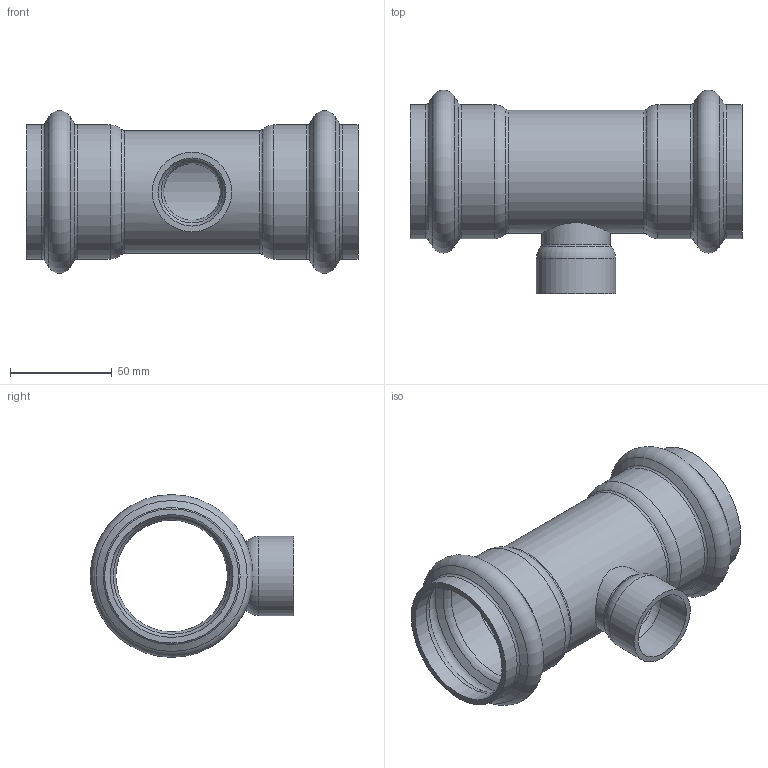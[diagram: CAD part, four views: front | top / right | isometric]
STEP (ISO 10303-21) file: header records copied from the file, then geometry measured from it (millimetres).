
FILE_DESCRIPTION(/* description */ ('VIC TEE RED. BRANCH STYLE P588 (P x P x F)','CAx-IF Rec.Pracs.---Representation and Presentation of Product Manufacturing Information (PMI)---4.0---2014-10-13'),/* implementation_level */ '2;1');
FILE_NAME(/* name */ 'C:\Users\Vjadhav\AppData\Roaming\Autodesk\ApplicationPlugins\Back Up\Victaulic_SS-Vic-Press-TP 304_Tee Threaded_Style P588 (VPxFPT)\Victaulic_SS-Vic-Press-TP 304_Tee Threaded_Style P588 (VPxFPT)_02.0x01.0 (50x25).stp',/* time_stamp */ '2020-08-12T18:49:57+05:00',/* author */ ('cgray'),/* organization */ ('Victaulic'),/* preprocessor_version */ 'ST-DEVELOPER v17.2',/* originating_system */ 'Autodesk Inventor 2019',/* authorisation */ '');
FILE_SCHEMA (('AP242_MANAGED_MODEL_BASED_3D_ENGINEERING_MIM_LF { 1 0 10303 442 1 1 4 }'));
Length unit declared in the file: inch
Products named in the file (1): P588-02.0x01.0
Bounding box: 163.07 x 99.91 x 79.93 mm (x, y, z)
Volume: 104708.3 mm3; surface area: 77031.4 mm2
Topology: 1 solids, 1 shells, 49 faces, 184 edges, 136 vertices
Faces by surface type: torus 24, cylinder 14, cone 8, plane 3
Full cylindrical faces by diameter (mm): 27.864 x1, 33.401 x2, 38.938 x1, 54.788 x1, 60.325 x5, 65.862 x4
Entity records: 2395 total; most frequent: CARTESIAN_POINT 499, DIRECTION 454, ORIENTED_EDGE 368, AXIS2_PLACEMENT_3D 215, EDGE_CURVE 184, CIRCLE 152, VERTEX_POINT 136, EDGE_LOOP 52
